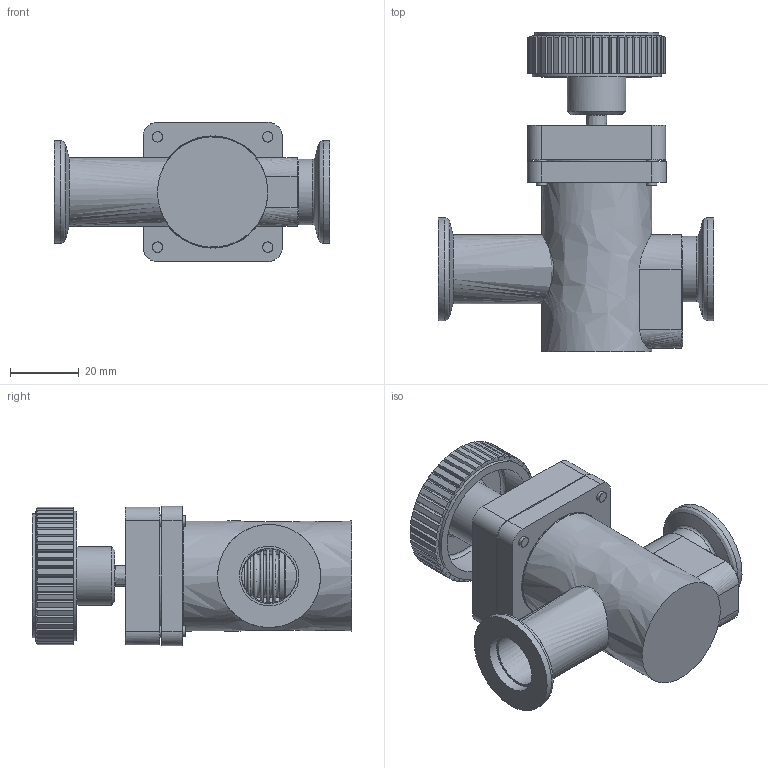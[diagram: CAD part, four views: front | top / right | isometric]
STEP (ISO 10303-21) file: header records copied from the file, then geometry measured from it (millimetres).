
FILE_DESCRIPTION((''),'2;1');
FILE_NAME('C:\TEMP\IDEAS\323719.stp','2007-11-05T13:23:23',('User'),( 'SDRC'),'I-DEAS Master Series 9','UNIX','Yes');
FILE_SCHEMA(('CONFIG_CONTROL_DESIGN'));
Length unit declared in the file: millimetre
Assembly tree (16 placements, depth 0):
Bounding box: 80 x 92.78 x 40.4 mm (x, y, z)
Volume: 59112.1 mm3; surface area: 61783.4 mm2
Topology: 14 solids, 14 shells, 631 faces, 1417 edges, 931 vertices
Faces by surface type: bspline 631
Entity records: 23636 total; most frequent: CARTESIAN_POINT 13690, ORIENTED_EDGE 2682, EDGE_CURVE 1341, VERTEX_POINT 875, EDGE_LOOP 734, FACE_OUTER_BOUND 595, ADVANCED_FACE 595, QUASI_UNIFORM_CURVE 347
